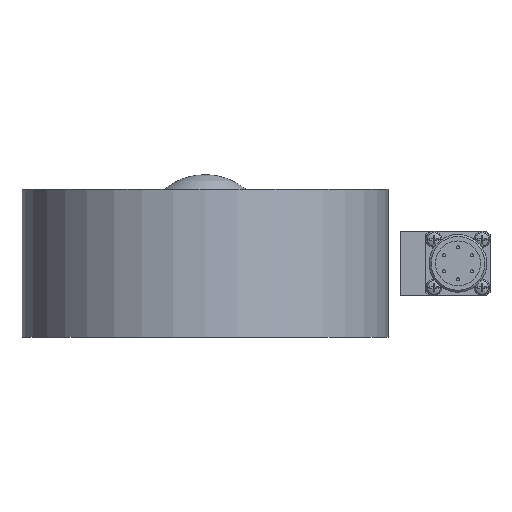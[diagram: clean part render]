
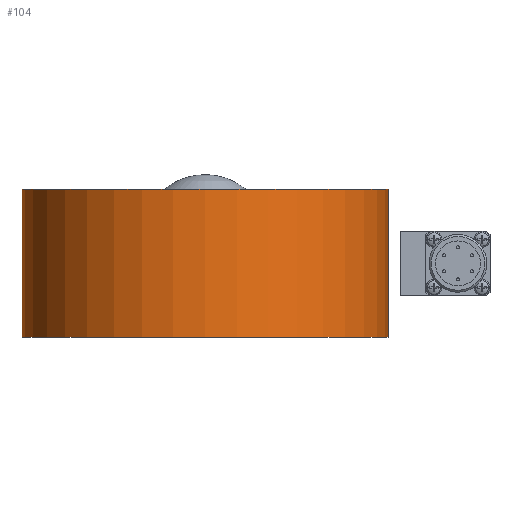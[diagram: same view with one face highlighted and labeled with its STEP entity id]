
A CAD part, front view. The second image highlights one B-rep face of the part: STEP entity #104.
In plain terms, the highlighted cylindrical face has radius 57.15 mm (diameter 114.3 mm), a partial arc.
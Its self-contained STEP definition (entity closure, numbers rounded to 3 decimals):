
#104=ADVANCED_FACE('',(#303),#304,.T.);
#303=FACE_OUTER_BOUND('',#650,.T.);
#304=CYLINDRICAL_SURFACE('',#651,57.15);
#650=EDGE_LOOP('',(#1127,#1128,#1129,#1130));
#651=AXIS2_PLACEMENT_3D('',#1131,#1132,#1133);
#1127=ORIENTED_EDGE('',*,*,#2193,.T.);
#1128=ORIENTED_EDGE('',*,*,#2240,.F.);
#1129=ORIENTED_EDGE('',*,*,#2195,.T.);
#1130=ORIENTED_EDGE('',*,*,#2254,.F.);
#1131=CARTESIAN_POINT('',(0.0,0.0,23.1));
#1132=DIRECTION('',(0.0,0.0,-1.0));
#1133=DIRECTION('',(1.0,0.0,0.0));
#2193=EDGE_CURVE('',#2581,#2582,#2583,.T.);
#2195=EDGE_CURVE('',#2586,#2584,#2587,.T.);
#2240=EDGE_CURVE('',#2586,#2582,#2668,.T.);
#2254=EDGE_CURVE('',#2581,#2584,#2683,.T.);
#2581=VERTEX_POINT('',#3210);
#2582=VERTEX_POINT('',#3211);
#2583=LINE('',#3212,#3213);
#2584=VERTEX_POINT('',#3214);
#2586=VERTEX_POINT('',#3216);
#2587=LINE('',#3217,#3218);
#2668=CIRCLE('',#3317,57.15);
#2683=CIRCLE('',#3332,57.15);
#3210=CARTESIAN_POINT('',(57.15,0.0,0.0));
#3211=CARTESIAN_POINT('',(57.15,0.0,46.2));
#3212=CARTESIAN_POINT('',(57.15,0.,23.1));
#3213=VECTOR('',#4524,1.0);
#3214=CARTESIAN_POINT('',(-57.15,0.,0.0));
#3216=CARTESIAN_POINT('',(-57.15,0.,46.2));
#3217=CARTESIAN_POINT('',(-57.15,0.,23.1));
#3218=VECTOR('',#4528,1.0);
#3317=AXIS2_PLACEMENT_3D('',#4625,#4626,#4627);
#3332=AXIS2_PLACEMENT_3D('',#4667,#4668,#4669);
#4524=DIRECTION('',(0.0,0.0,1.0));
#4528=DIRECTION('',(0.0,0.0,-1.0));
#4625=CARTESIAN_POINT('',(0.0,0.0,46.2));
#4626=DIRECTION('',(0.0,0.0,1.0));
#4627=DIRECTION('',(1.0,0.0,0.0));
#4667=CARTESIAN_POINT('',(0.0,0.0,0.0));
#4668=DIRECTION('',(0.0,0.0,-1.0));
#4669=DIRECTION('',(1.0,0.0,0.0));
